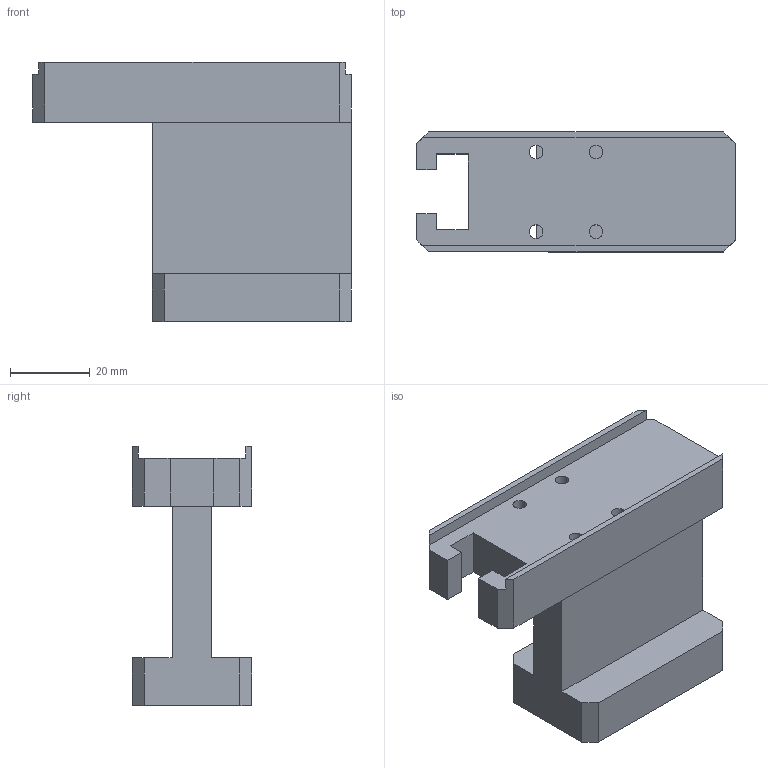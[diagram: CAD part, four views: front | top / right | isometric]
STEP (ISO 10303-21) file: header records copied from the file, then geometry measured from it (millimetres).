
FILE_DESCRIPTION (( 'STEP AP203' ), '1' );
FILE_NAME ('三代四面贴标上料滑块连接板.step', '2026-06-30T11:55:08', ( '' ), ( '' ), 'SwSTEP 2.0', 'SolidWorks 2024', '' );
FILE_SCHEMA (( 'CONFIG_CONTROL_DESIGN' ));
Length unit declared in the file: millimetre
Products named in the file (1): 三代四面贴标上料滑块连接板
Bounding box: 80 x 30 x 65 mm (x, y, z)
Volume: 62844.8 mm3; surface area: 17407 mm2
Topology: 1 solids, 1 shells, 46 faces, 130 edges, 85 vertices
Faces by surface type: plane 34, cylinder 10, cone 2
Entity records: 1557 total; most frequent: CARTESIAN_POINT 260, ORIENTED_EDGE 256, DIRECTION 242, EDGE_CURVE 128, LINE 108, VECTOR 108, VERTEX_POINT 85, AXIS2_PLACEMENT_3D 67
